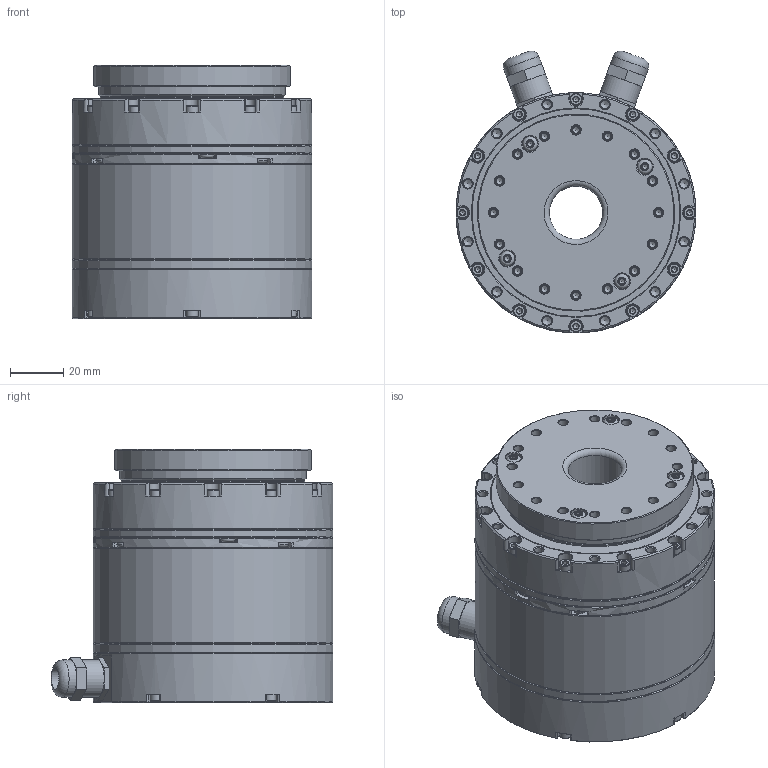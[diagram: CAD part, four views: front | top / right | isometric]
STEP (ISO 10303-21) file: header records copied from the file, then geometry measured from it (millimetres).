
FILE_DESCRIPTION(/* description */ (''),/* implementation_level */ '2;1');
FILE_NAME(/* name */ 'MIS20D-BS-C00.stp',/* time_stamp */ '2025-04-17T15:47:27+08:00',/* author */ (''),/* organization */ (''),/* preprocessor_version */ 'ST-DEVELOPER v16.7',/* originating_system */ 'SIEMENS PLM Software NX 12.0',/* authorisation */ '');
FILE_SCHEMA (('AUTOMOTIVE_DESIGN { 1 0 10303 214 3 1 1 1 }'));
Length unit declared in the file: millimetre
Products named in the file (1): MIS20D-BS-C00
Bounding box: 90 x 105.75 x 95 mm (x, y, z)
Volume: 238861.6 mm3; surface area: 171604.9 mm2
Topology: 52 solids, 56 shells, 2375 faces, 5223 edges, 3049 vertices
Faces by surface type: cone 905, plane 853, cylinder 522, torus 95
Full cylindrical faces by diameter (mm): 1.6 x8, 1.886 x4, 2 x2, 2.05 x30, 2.2 x4, 2.38 x18, 2.5 x36, 2.7 x48, 2.874 x16, 3 x4, 3.2 x4, 3.3 x16, 3.5 x52, 4.5 x18, 5.5 x16, 6 x8, 8 x8, 12 x6, 14 x4, 20 x1, 21 x1, 24 x1, 24.8 x1, 33 x1, 38 x1, 39 x1, 42 x2, 46 x1, 46.7 x1, 49.073 x1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
Entity records: 60936 total; most frequent: CARTESIAN_POINT 11825, DIRECTION 10672, ORIENTED_EDGE 8030, AXIS2_PLACEMENT_3D 4669, EDGE_CURVE 4015, EDGE_LOOP 3694, VERTEX_POINT 2887, FACE_BOUND 2550
